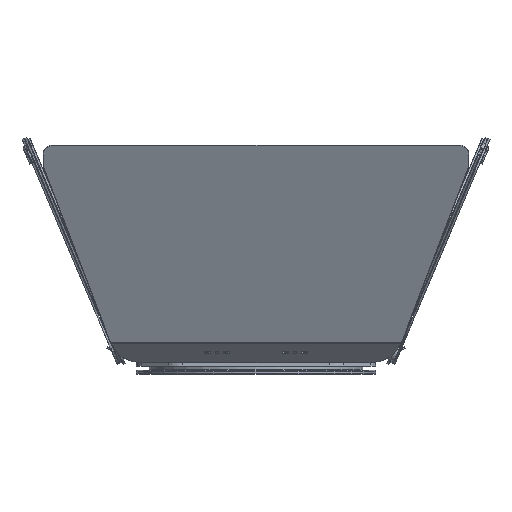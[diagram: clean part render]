
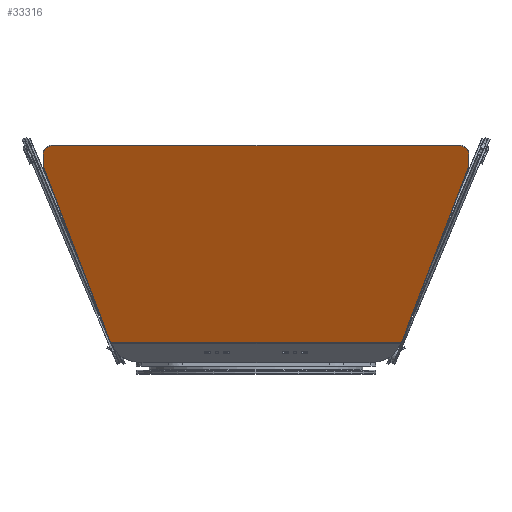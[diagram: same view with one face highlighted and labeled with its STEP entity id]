
A CAD part, left-side view. The second image highlights one B-rep face of the part: STEP entity #33316.
In plain terms, the highlighted planar face has unit normal (-0.908, 0, -0.42) as drawn and (0, 0, -1) by its records, which use the part's own axes.
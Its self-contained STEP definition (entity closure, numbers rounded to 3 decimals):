
#33251 = VERTEX_POINT('',#33252);
#33252 = CARTESIAN_POINT('',(111.664,118.926,-1.));
#33258 = EDGE_CURVE('',#33251,#33259,#33261,.T.);
#33259 = VERTEX_POINT('',#33260);
#33260 = CARTESIAN_POINT('',(111.664,125.109,-1.));
#33261 = LINE('',#33262,#33263);
#33262 = CARTESIAN_POINT('',(111.664,0.,-1.));
#33263 = VECTOR('',#33264,1.);
#33264 = DIRECTION('',(-0.,1.,0.));
#33280 = EDGE_CURVE('',#33281,#33283,#33285,.T.);
#33281 = VERTEX_POINT('',#33282);
#33282 = CARTESIAN_POINT('',(-111.664,125.109,-1.));
#33283 = VERTEX_POINT('',#33284);
#33284 = CARTESIAN_POINT('',(-111.664,118.926,-1.));
#33285 = LINE('',#33286,#33287);
#33286 = CARTESIAN_POINT('',(-111.664,0.,-1.));
#33287 = VECTOR('',#33288,1.);
#33288 = DIRECTION('',(0.,-1.,-0.));
#33316 = ADVANCED_FACE('',(#33317),#33385,.F.);
#33317 = FACE_BOUND('',#33318,.T.);
#33318 = EDGE_LOOP('',(#33319,#33320,#33329,#33337,#33345,#33353,#33360,
    #33361,#33370,#33378));
#33319 = ORIENTED_EDGE('',*,*,#33258,.F.);
#33320 = ORIENTED_EDGE('',*,*,#33321,.T.);
#33321 = EDGE_CURVE('',#33251,#33322,#33324,.T.);
#33322 = VERTEX_POINT('',#33323);
#33323 = CARTESIAN_POINT('',(111.387,117.286,-1.));
#33324 = CIRCLE('',#33325,5.);
#33325 = AXIS2_PLACEMENT_3D('',#33326,#33327,#33328);
#33326 = CARTESIAN_POINT('',(106.664,118.926,-1.));
#33327 = DIRECTION('',(0.,0.,-1.));
#33328 = DIRECTION('',(1.,0.,0.));
#33329 = ORIENTED_EDGE('',*,*,#33330,.T.);
#33330 = EDGE_CURVE('',#33322,#33331,#33333,.T.);
#33331 = VERTEX_POINT('',#33332);
#33332 = CARTESIAN_POINT('',(76.412,16.588,-1.));
#33333 = LINE('',#33334,#33335);
#33334 = CARTESIAN_POINT('',(76.412,16.588,-1.));
#33335 = VECTOR('',#33336,1.);
#33336 = DIRECTION('',(-0.328,-0.945,0.));
#33337 = ORIENTED_EDGE('',*,*,#33338,.T.);
#33338 = EDGE_CURVE('',#33331,#33339,#33341,.T.);
#33339 = VERTEX_POINT('',#33340);
#33340 = CARTESIAN_POINT('',(-76.412,16.588,-1.));
#33341 = LINE('',#33342,#33343);
#33342 = CARTESIAN_POINT('',(0.,16.588,-1.));
#33343 = VECTOR('',#33344,1.);
#33344 = DIRECTION('',(-1.,-0.,0.));
#33345 = ORIENTED_EDGE('',*,*,#33346,.T.);
#33346 = EDGE_CURVE('',#33339,#33347,#33349,.T.);
#33347 = VERTEX_POINT('',#33348);
#33348 = CARTESIAN_POINT('',(-111.387,117.286,-1.));
#33349 = LINE('',#33350,#33351);
#33350 = CARTESIAN_POINT('',(-111.664,118.083,-1.));
#33351 = VECTOR('',#33352,1.);
#33352 = DIRECTION('',(-0.328,0.945,0.));
#33353 = ORIENTED_EDGE('',*,*,#33354,.T.);
#33354 = EDGE_CURVE('',#33347,#33283,#33355,.T.);
#33355 = CIRCLE('',#33356,5.);
#33356 = AXIS2_PLACEMENT_3D('',#33357,#33358,#33359);
#33357 = CARTESIAN_POINT('',(-106.664,118.926,-1.));
#33358 = DIRECTION('',(0.,0.,-1.));
#33359 = DIRECTION('',(1.,0.,0.));
#33360 = ORIENTED_EDGE('',*,*,#33280,.F.);
#33361 = ORIENTED_EDGE('',*,*,#33362,.T.);
#33362 = EDGE_CURVE('',#33281,#33363,#33365,.T.);
#33363 = VERTEX_POINT('',#33364);
#33364 = CARTESIAN_POINT('',(-106.664,130.109,-1.));
#33365 = CIRCLE('',#33366,5.);
#33366 = AXIS2_PLACEMENT_3D('',#33367,#33368,#33369);
#33367 = CARTESIAN_POINT('',(-106.664,125.109,-1.));
#33368 = DIRECTION('',(0.,0.,-1.));
#33369 = DIRECTION('',(1.,0.,0.));
#33370 = ORIENTED_EDGE('',*,*,#33371,.T.);
#33371 = EDGE_CURVE('',#33363,#33372,#33374,.T.);
#33372 = VERTEX_POINT('',#33373);
#33373 = CARTESIAN_POINT('',(106.664,130.109,-1.));
#33374 = LINE('',#33375,#33376);
#33375 = CARTESIAN_POINT('',(0.,130.109,-1.));
#33376 = VECTOR('',#33377,1.);
#33377 = DIRECTION('',(1.,0.,-0.));
#33378 = ORIENTED_EDGE('',*,*,#33379,.T.);
#33379 = EDGE_CURVE('',#33372,#33259,#33380,.T.);
#33380 = CIRCLE('',#33381,5.);
#33381 = AXIS2_PLACEMENT_3D('',#33382,#33383,#33384);
#33382 = CARTESIAN_POINT('',(106.664,125.109,-1.));
#33383 = DIRECTION('',(0.,0.,-1.));
#33384 = DIRECTION('',(1.,0.,0.));
#33385 = PLANE('',#33386);
#33386 = AXIS2_PLACEMENT_3D('',#33387,#33388,#33389);
#33387 = CARTESIAN_POINT('',(0.,0.,-1.));
#33388 = DIRECTION('',(0.,0.,1.));
#33389 = DIRECTION('',(1.,0.,-0.));
